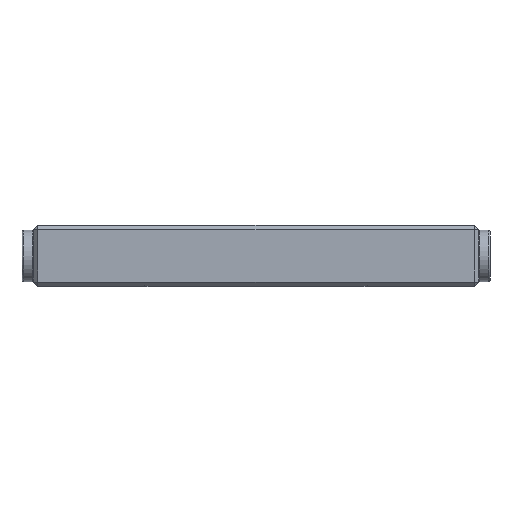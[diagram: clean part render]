
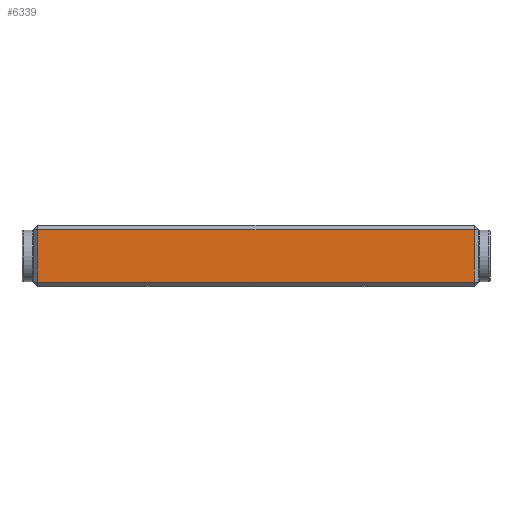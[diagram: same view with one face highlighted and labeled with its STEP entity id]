
A CAD part, top view. The second image highlights one B-rep face of the part: STEP entity #6339.
In plain terms, the highlighted planar face has unit normal (0, 0, 1).
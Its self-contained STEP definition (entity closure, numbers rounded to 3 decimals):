
#110 = ORIENTED_EDGE ( 'NONE', *, *, #6308, .T. ) ;
#114 = VECTOR ( 'NONE', #3343, 1000. ) ;
#182 = VECTOR ( 'NONE', #1909, 1000. ) ;
#364 = LINE ( 'NONE', #9093, #114 ) ;
#458 = VERTEX_POINT ( 'NONE', #6022 ) ;
#466 = CARTESIAN_POINT ( 'NONE',  ( -39.2, -5.5, 22. ) ) ;
#1385 = AXIS2_PLACEMENT_3D ( 'NONE', #6550, #5096, #8069 ) ;
#1490 = CARTESIAN_POINT ( 'NONE',  ( -39.2, 4.7, 22. ) ) ;
#1866 = EDGE_LOOP ( 'NONE', ( #2604, #9583, #3500, #110 ) ) ;
#1883 = LINE ( 'NONE', #466, #2632 ) ;
#1909 = DIRECTION ( 'NONE',  ( 0., 1., 0. ) ) ;
#2107 = CARTESIAN_POINT ( 'NONE',  ( 39.2, -4.7, 22. ) ) ;
#2125 = PLANE ( 'NONE',  #1385 ) ;
#2604 = ORIENTED_EDGE ( 'NONE', *, *, #4789, .T. ) ;
#2632 = VECTOR ( 'NONE', #4855, 1000. ) ;
#2916 = LINE ( 'NONE', #6827, #5584 ) ;
#3343 = DIRECTION ( 'NONE',  ( -1., 0., 0. ) ) ;
#3500 = ORIENTED_EDGE ( 'NONE', *, *, #6198, .T. ) ;
#4054 = LINE ( 'NONE', #7758, #182 ) ;
#4520 = VERTEX_POINT ( 'NONE', #1490 ) ;
#4789 = EDGE_CURVE ( 'NONE', #458, #7878, #2916, .T. ) ;
#4855 = DIRECTION ( 'NONE',  ( 0., -1., 0. ) ) ;
#5013 = CARTESIAN_POINT ( 'NONE',  ( 39.2, 4.7, 22. ) ) ;
#5096 = DIRECTION ( 'NONE',  ( 0., 0., -1. ) ) ;
#5584 = VECTOR ( 'NONE', #8126, 1000. ) ;
#6022 = CARTESIAN_POINT ( 'NONE',  ( -39.2, -4.7, 22. ) ) ;
#6198 = EDGE_CURVE ( 'NONE', #9408, #4520, #364, .T. ) ;
#6308 = EDGE_CURVE ( 'NONE', #4520, #458, #1883, .T. ) ;
#6339 = ADVANCED_FACE ( 'NONE', ( #8795 ), #2125, .F. ) ;
#6550 = CARTESIAN_POINT ( 'NONE',  ( 40., -5.5, 22. ) ) ;
#6827 = CARTESIAN_POINT ( 'NONE',  ( 40., -4.7, 22. ) ) ;
#7758 = CARTESIAN_POINT ( 'NONE',  ( 39.2, -5.5, 22. ) ) ;
#7762 = EDGE_CURVE ( 'NONE', #7878, #9408, #4054, .T. ) ;
#7878 = VERTEX_POINT ( 'NONE', #2107 ) ;
#8069 = DIRECTION ( 'NONE',  ( 1., 0., 0. ) ) ;
#8126 = DIRECTION ( 'NONE',  ( 1., 0., 0. ) ) ;
#8795 = FACE_OUTER_BOUND ( 'NONE', #1866, .T. ) ;
#9093 = CARTESIAN_POINT ( 'NONE',  ( 40., 4.7, 22. ) ) ;
#9408 = VERTEX_POINT ( 'NONE', #5013 ) ;
#9583 = ORIENTED_EDGE ( 'NONE', *, *, #7762, .T. ) ;
